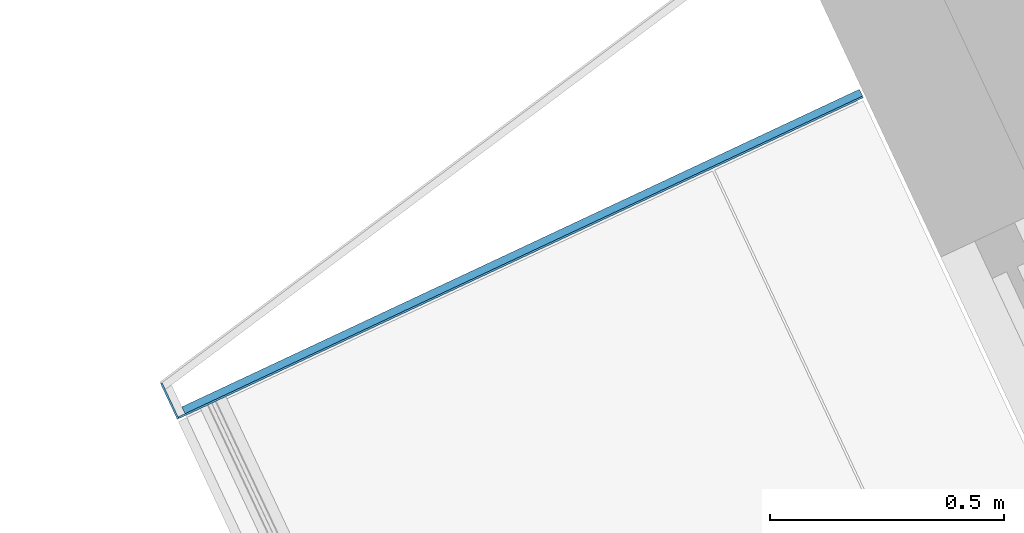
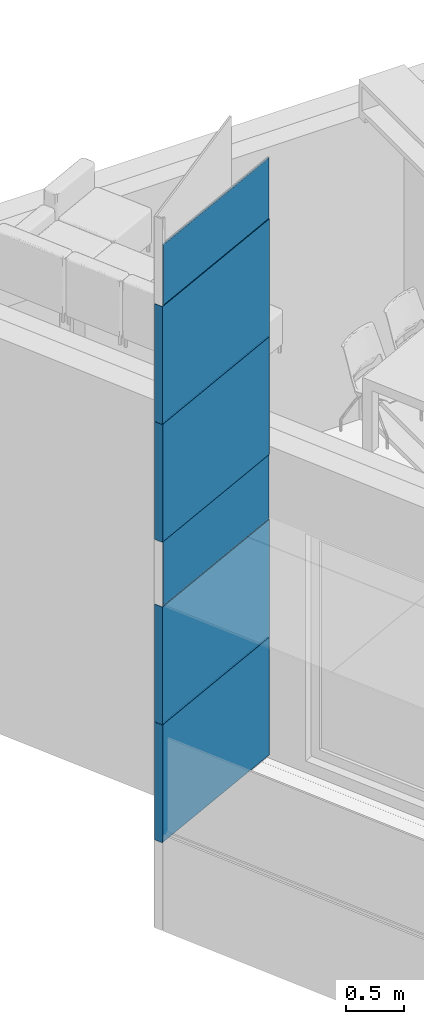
# One storey, part 11 of 125: 14 building element parts, 2 elements without a shape of their own.
"""IFC2X3 building model written with IfcOpenShell, lengths in millimetres."""

import ifcopenshell
import ifcopenshell.guid

model = None  # the IFC model being written
_history = None  # IfcOwnerHistory: only IFC2X3 demands one
_inside = {}  # id of a spatial element -> (the spatial element, [elements in it])
_under = {}  # id of a project, library or spatial element -> (it, [spatial elements below it])
_declared = {}  # id of a project -> (the project, [libraries it declares])
_typed = {}  # id of a type object -> (the type object, [elements of that type])
_made_of = {}  # id of a material, layer set ... -> (it, [elements and type objects made of it])


def new_model(schema):
    """Start an empty IFC model of exactly this schema.

    Asked for "IFC4X3", IfcOpenShell would pick the latest addendum, in which some entities
    have other attributes; the version numbers below select the first issue.
    IFC2X3 requires an IfcOwnerHistory on every rooted entity: one is made here for all.
    """
    global model, _history
    if schema == "IFC4X3":
        model = ifcopenshell.file(schema_version=(4, 3, 0, 0))
    else:
        model = ifcopenshell.file(schema=schema)
    _inside.clear()
    _under.clear()
    _declared.clear()
    _typed.clear()
    _made_of.clear()
    _history = None
    if model.schema == "IFC2X3":
        org = make("IfcOrganization", Name="unknown")
        user = make(
            "IfcPersonAndOrganization",
            ThePerson=make("IfcPerson", FamilyName="unknown"),
            TheOrganization=org,
        )
        app = make(
            "IfcApplication",
            ApplicationDeveloper=org,
            Version="unknown",
            ApplicationFullName="unknown",
            ApplicationIdentifier="unknown",
        )
        _history = make(
            "IfcOwnerHistory",
            OwningUser=user,
            OwningApplication=app,
            ChangeAction="ADDED",
            CreationDate=0,
        )
    return model


def make(cls, **values):
    """One entity of the class cls with the attributes given. An attribute that is None is left unset."""
    return model.create_entity(
        cls, **{name: value for name, value in values.items() if value is not None}
    )


def entity(cls, *values):
    """Any entity or typed value of the class cls, its attributes in the order of the schema. None: left unset."""
    e = model.create_entity(cls)
    for i, value in enumerate(values):
        if value is not None:
            e[i] = value
    return e


def rooted(cls, **values):
    """An entity with a GlobalId (a new one), such as an element, a storey or a relation."""
    return make(cls, GlobalId=ifcopenshell.guid.new(), OwnerHistory=_history, **values)


def si_unit(unit_type, name, prefix=None):
    """IfcSIUnit, for example si_unit("LENGTHUNIT", "METRE", prefix="MILLI")."""
    return make("IfcSIUnit", UnitType=unit_type, Prefix=prefix, Name=name)


def converted_unit(unit_type, name, factor, base, dimensions=None, offset=None):
    """IfcConversionBasedUnit, such as the inch: factor (a typed value) times the base unit."""
    return make(
        "IfcConversionBasedUnit"
        if offset is None
        else "IfcConversionBasedUnitWithOffset",
        ConversionOffset=offset,
        Dimensions=None
        if dimensions is None
        else entity("IfcDimensionalExponents", *dimensions),
        UnitType=unit_type,
        Name=name,
        ConversionFactor=make(
            "IfcMeasureWithUnit", ValueComponent=factor, UnitComponent=base
        ),
    )


def assignment(units):
    """IfcUnitAssignment: the units of a project."""
    return None if units is None else make("IfcUnitAssignment", Units=units)


def point(xyz):
    """IfcCartesianPoint."""
    return None if xyz is None else make("IfcCartesianPoint", Coordinates=xyz)


def direction(xyz):
    """IfcDirection."""
    return None if xyz is None else make("IfcDirection", DirectionRatios=xyz)


def frame(location, z_axis=None, x_axis=None):
    """IfcAxis2Placement3D, a coordinate frame: its origin and axes. An axis left out is left unset."""
    return make(
        "IfcAxis2Placement3D",
        Location=point(location),
        Axis=direction(z_axis),
        RefDirection=direction(x_axis),
    )


def frame_2d(location, x_axis=None):
    """IfcAxis2Placement2D, a coordinate frame in the plane: its origin and x axis."""
    return make(
        "IfcAxis2Placement2D", Location=point(location), RefDirection=direction(x_axis)
    )


def origin():
    """The frame at (0, 0, 0) with its axes left unset."""
    return frame((0.0, 0.0, 0.0))


def place(relative_to, where):
    """IfcLocalPlacement: puts the frame where relative to a parent placement (None: the world)."""
    return make(
        "IfcLocalPlacement", PlacementRelTo=relative_to, RelativePlacement=where
    )


def context(
    kind, dimensions, precision=None, world=None, true_north=None, identifier=None
):
    """IfcGeometricRepresentationContext, for example the 3D "Model" context."""
    return make(
        "IfcGeometricRepresentationContext",
        ContextIdentifier=identifier,
        ContextType=kind,
        CoordinateSpaceDimension=dimensions,
        Precision=precision,
        WorldCoordinateSystem=world,
        TrueNorth=true_north,
    )


def subcontext(parent, identifier, kind, view, scale=None):
    """IfcGeometricRepresentationSubContext, for example "Body" below "Model"."""
    return make(
        "IfcGeometricRepresentationSubContext",
        ContextIdentifier=identifier,
        ContextType=kind,
        ParentContext=parent,
        TargetScale=scale,
        TargetView=view,
    )


def project(units=None, contexts=None):
    """IfcProject with its units and contexts."""
    return rooted(
        "IfcProject",
        Name="project",
        RepresentationContexts=contexts,
        UnitsInContext=assignment(units),
    )


def spatial(cls, under=None, at=None, **own):
    """A site, building, storey or space (cls), placed at a placement, below another one or the project."""
    s = rooted(cls, ObjectPlacement=at, **own)
    if under is not None:
        _under.setdefault(under.id(), (under, []))[1].append(s)
    return s


def polyline(points):
    """IfcPolyline through the points."""
    return make("IfcPolyline", Points=[point(p) for p in points])


def profile(cls, at=None, kind="AREA", **sizes):
    """A parametric profile (cls). Its sizes go by their IFC names, for example OverallWidth=200.0."""
    return make(cls, ProfileType=kind, Position=at, **sizes)


def rectangle(**sizes):
    """IfcRectangleProfileDef."""
    return profile("IfcRectangleProfileDef", **sizes)


def outline(outer, holes=None, kind="AREA"):
    """IfcArbitraryClosedProfileDef: a profile drawn as a closed curve; with holes, ...WithVoids."""
    if holes is None:
        return make("IfcArbitraryClosedProfileDef", ProfileType=kind, OuterCurve=outer)
    return make(
        "IfcArbitraryProfileDefWithVoids",
        ProfileType=kind,
        OuterCurve=outer,
        InnerCurves=holes,
    )


def extrude(swept, where, along, depth):
    """IfcExtrudedAreaSolid: the profile swept, set in the frame where, extruded along a direction by depth."""
    return make(
        "IfcExtrudedAreaSolid",
        SweptArea=swept,
        Position=where,
        ExtrudedDirection=direction(along),
        Depth=depth,
    )


def shape(context_of_items, identifier, shape_type, items):
    """IfcShapeRepresentation: the items that make up one representation, for example the "Body"."""
    return make(
        "IfcShapeRepresentation",
        ContextOfItems=context_of_items,
        RepresentationIdentifier=identifier,
        RepresentationType=shape_type,
        Items=items,
    )


def material(Name=None, Category=None):
    """IfcMaterial."""
    return make("IfcMaterial", Name=Name, Category=Category)


def made_of(thing, what):
    """Note that an element or type object is made of a material, layer set ...; save() writes the relation."""
    if what is not None:
        _made_of.setdefault(what.id(), (what, []))[1].append(thing)
    return thing


def type_object(cls, material=None, **own):
    """A type object (cls), such as IfcWallType, which elements share."""
    return made_of(rooted(cls, **own), material)


def element(
    cls,
    number,
    at=None,
    inside=None,
    cuts=None,
    type_object=None,
    material=None,
    context=None,
    identifier="Body",
    shape_type=None,
    held_by="IfcProductDefinitionShape",
    body=None,
    shapes=None,
    **own,
):
    """One element of the class cls, such as IfcWall. Its Tag is "e" and its number.

    at: its placement. inside: the storey or other place that contains it. cuts: it is an
    opening in that element (IfcRelVoidsElement). A single representation is given by context,
    identifier, shape_type and body (its items); several are given by shapes. held_by: the class
    of the entity that holds the representations. save() writes the other relations.
    """
    e = rooted(cls, Tag="e%d" % number, ObjectPlacement=at, **own)
    if body is not None:
        shapes = [shape(context, identifier, shape_type, body)]
    if shapes is not None:
        e.Representation = make(held_by, Representations=shapes)
    if inside is not None:
        _inside.setdefault(inside.id(), (inside, []))[1].append(e)
    if cuts is not None:
        rooted(
            "IfcRelVoidsElement", RelatingBuildingElement=cuts, RelatedOpeningElement=e
        )
    if type_object is not None:
        _typed.setdefault(type_object.id(), (type_object, []))[1].append(e)
    return made_of(e, material)


def aggregate(whole, parts):
    """IfcRelAggregates: a whole, such as a stair, and the parts it consists of."""
    return rooted("IfcRelAggregates", RelatingObject=whole, RelatedObjects=parts)


def save(model, path):
    """Write the relations noted so far, then the file.

    IfcRelAggregates (storeys below a building ...), IfcRelContainedInSpatialStructure (elements
    in a storey), IfcRelDefinesByType, IfcRelAssociatesMaterial and IfcRelDeclares: one each for
    every whole, place, type object, material and project.
    """
    for whole, parts in _under.values():
        aggregate(whole, parts)
    for where, things in _inside.values():
        rooted(
            "IfcRelContainedInSpatialStructure",
            RelatedElements=things,
            RelatingStructure=where,
        )
    for kind, things in _typed.values():
        rooted("IfcRelDefinesByType", RelatedObjects=things, RelatingType=kind)
    for what, things in _made_of.values():
        rooted("IfcRelAssociatesMaterial", RelatedObjects=things, RelatingMaterial=what)
    for by, libraries in _declared.values():
        rooted("IfcRelDeclares", RelatingContext=by, RelatedDefinitions=libraries)
    model.write(path)


model = new_model("IFC2X3")

# Units and contexts
model_context = context("Model", 3, precision=0.01, world=origin(), true_north=direction((6.123233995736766e-17, 1.0)))
plan_context = context("Plan", 3, precision=0.01, world=origin(), true_north=direction((6.123233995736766e-17, 1.0)))
body_context = subcontext(model_context, "Body", "Model", "MODEL_VIEW")
ifc_project = project(units=[si_unit("LENGTHUNIT", "METRE", prefix="MILLI"), converted_unit("PLANEANGLEUNIT", "DEGREE", entity("IfcPlaneAngleMeasure", 0.017453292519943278), si_unit("PLANEANGLEUNIT", "RADIAN"), dimensions=[0, 0, 0, 0, 0, 0, 0]), si_unit("AREAUNIT", "SQUARE_METRE")], contexts=[model_context, plan_context])

# Site, building, storey
site_placement = place(None, origin())
site = spatial("IfcSite", under=ifc_project, at=site_placement, Name="Default", CompositionType="ELEMENT")
building_placement = place(site_placement, origin())
building = spatial("IfcBuilding", under=site, at=building_placement, CompositionType="ELEMENT")
storey_placement = place(building_placement, frame((0.0, 0.0, 3125.0)))
storey = spatial("IfcBuildingStorey", under=building, at=storey_placement, Name="2K", CompositionType="ELEMENT", Elevation=3125.0)

# Wall, building element parts
wall_type = type_object("IfcWallType", Name="Basic Wall:VS-komposiit", PredefinedType="STANDARD")
wall_1_placement = place(storey_placement, frame((-5275.291839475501, 10873.092340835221, -1010.0), z_axis=(0.0, 0.0, 1.0), x_axis=(0.4244316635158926, -0.9054599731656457, 0.0)))
wall_1 = element("IfcWall", 1, at=wall_1_placement, inside=storey, type_object=wall_type, Name="Basic Wall:VS-komposiit", ObjectType="Basic Wall:VS-komposiit")
ifc_material_1 = material(Name="_K. Välisviimistlus. Alumiinium-komposiitplaat")
building_element_part_1_placement = place(wall_1_placement, origin())
building_element_part_1 = element("IfcBuildingElementPart", 2, at=building_element_part_1_placement, material=ifc_material_1, Name="Part", context=body_context, shape_type="SweptSolid", body=[
    extrude(outline(polyline([(-42.2001351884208, -2.0), (42.612601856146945, -2.0), (41.7876685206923, 2.0), (-42.2001351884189, 2.0), (-42.2001351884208, -2.0)])), frame((29.57562071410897, -8.0, 2172.4999999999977), z_axis=(0.0, 0.0, 1.0), x_axis=(-1.0, 0.0, 0.0)), (0.0, 0.0, 1.0), 1240.000000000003),
])
building_element_part_2_placement = place(wall_1_placement, origin())
building_element_part_2 = element("IfcBuildingElementPart", 3, at=building_element_part_2_placement, material=ifc_material_1, Name="Part", context=body_context, shape_type="SweptSolid", body=[
    extrude(outline(polyline([(-42.2001351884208, -2.0), (42.612601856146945, -2.0), (41.7876685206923, 2.0), (-42.2001351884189, 2.0), (-42.2001351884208, -2.0)])), frame((29.57562071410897, -8.0, 927.4999999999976), z_axis=(0.0, 0.0, 1.0), x_axis=(-1.0, 0.0, 0.0)), (0.0, 0.0, 1.0), 1240.0000000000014),
])
building_element_part_3_placement = place(wall_1_placement, origin())
building_element_part_3 = element("IfcBuildingElementPart", 4, at=building_element_part_3_placement, material=ifc_material_1, Name="Part", context=body_context, shape_type="SweptSolid", body=[
    extrude(outline(polyline([(-42.2001351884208, -2.0), (42.612601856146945, -2.0), (41.7876685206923, 2.0), (-42.2001351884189, 2.0), (-42.2001351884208, -2.0)])), frame((29.57562071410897, -8.0, 4097.499999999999), z_axis=(0.0, 0.0, 1.0), x_axis=(-1.0, 0.0, 0.0)), (0.0, 0.0, 1.0), 1240.0000000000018),
])
building_element_part_4_placement = place(wall_1_placement, origin())
building_element_part_4 = element("IfcBuildingElementPart", 5, at=building_element_part_4_placement, material=ifc_material_1, Name="Part", context=body_context, shape_type="SweptSolid", body=[
    extrude(outline(polyline([(-42.2001351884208, -2.0), (42.612601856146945, -2.0), (41.7876685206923, 2.0), (-42.2001351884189, 2.0), (-42.2001351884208, -2.0)])), frame((29.57562071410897, -8.0, 5342.499999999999), z_axis=(0.0, 0.0, 1.0), x_axis=(-1.0, 0.0, 0.0)), (0.0, 0.0, 1.0), 1240.000000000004),
])
aggregate(wall_1, [building_element_part_1, building_element_part_2, building_element_part_3, building_element_part_4])

wall_2_placement = place(storey_placement, frame((-5240.017652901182, 10821.401183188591, -1010.0), z_axis=(0.0, 0.0, 1.0), x_axis=(0.905459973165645, 0.42443166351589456, 0.0)))
wall_2 = element("IfcWall", 6, at=wall_2_placement, inside=storey, type_object=wall_type, Name="Basic Wall:VS-komposiit", ObjectType="Basic Wall:VS-komposiit")
ifc_material_2 = material(Name="_K. Õhk. Roov. Fassaadikatte alusroov. Horisontaalne. 25 mm")
building_element_part_5_placement = place(wall_2_placement, origin())
building_element_part_5 = element("IfcBuildingElementPart", 7, at=building_element_part_5_placement, material=ifc_material_2, Name="Part", context=body_context, shape_type="SweptSolid", body=[
    extrude(rectangle(XDim=1597.0000000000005, YDim=16.000000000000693, at=frame_2d((-9.094947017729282e-13, 4.4009240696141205e-13), x_axis=(1.0, 0.0))), frame((798.4999999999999, 2.0, 2172.4999999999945), z_axis=(0.0, 0.0, 1.0), x_axis=(-1.0, 0.0, 0.0)), (0.0, 0.0, 1.0), 1240.0000000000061),
])
building_element_part_6_placement = place(wall_2_placement, origin())
building_element_part_6 = element("IfcBuildingElementPart", 8, at=building_element_part_6_placement, material=ifc_material_2, Name="Part", context=body_context, shape_type="SweptSolid", body=[
    extrude(rectangle(XDim=1597.0000000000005, YDim=16.000000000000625, at=frame_2d((-2.4442670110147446e-12, -1.2523315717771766e-12), x_axis=(1.0, 0.0))), frame((798.4999999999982, 2.0, 927.4999999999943), z_axis=(0.0, 0.0, 1.0), x_axis=(-1.0, 0.0, 0.0)), (0.0, 0.0, 1.0), 1240.0000000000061),
])
building_element_part_7_placement = place(wall_2_placement, origin())
building_element_part_7 = element("IfcBuildingElementPart", 9, at=building_element_part_7_placement, material=ifc_material_2, Name="Part", context=body_context, shape_type="SweptSolid", body=[
    extrude(rectangle(XDim=1597.0000000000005, YDim=16.000000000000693, at=frame_2d((-9.094947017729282e-13, 4.4009240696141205e-13), x_axis=(1.0, 0.0))), frame((798.4999999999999, 2.0, 5342.499999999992), z_axis=(0.0, 0.0, 1.0), x_axis=(-1.0, 0.0, 0.0)), (0.0, 0.0, 1.0), 1240.0000000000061),
])
building_element_part_8_placement = place(wall_2_placement, origin())
building_element_part_8 = element("IfcBuildingElementPart", 10, at=building_element_part_8_placement, material=ifc_material_1, Name="Part", context=body_context, shape_type="SweptSolid", body=[
    extrude(rectangle(XDim=4.000000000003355, YDim=1613.0000000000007, at=frame_2d((5.414557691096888e-13, -1.5347723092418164e-12), x_axis=(1.0, 0.0))), frame((790.4999999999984, -8.0, 2172.4999999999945), z_axis=(0.0, 0.0, 1.0), x_axis=(0.0, 1.0, 0.0)), (0.0, 0.0, 1.0), 1240.0000000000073),
])
building_element_part_9_placement = place(wall_2_placement, origin())
building_element_part_9 = element("IfcBuildingElementPart", 11, at=building_element_part_9_placement, material=ifc_material_1, Name="Part", context=body_context, shape_type="SweptSolid", body=[
    extrude(rectangle(XDim=4.000000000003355, YDim=1613.0000000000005, at=frame_2d((3.0453417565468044e-13, -1.8758328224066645e-12), x_axis=(1.0, 0.0))), frame((790.4999999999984, -8.0, 927.4999999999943), z_axis=(0.0, 0.0, 1.0), x_axis=(0.0, 1.0, 0.0)), (0.0, 0.0, 1.0), 1240.0000000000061),
])
building_element_part_10_placement = place(wall_2_placement, origin())
building_element_part_10 = element("IfcBuildingElementPart", 12, at=building_element_part_10_placement, material=ifc_material_1, Name="Part", context=body_context, shape_type="SweptSolid", body=[
    extrude(rectangle(XDim=4.000000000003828, YDim=1613.0000000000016, at=frame_2d((3.0464519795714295e-13, -1.9895196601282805e-12), x_axis=(1.0, 0.0))), frame((790.4999999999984, -8.0, 5342.499999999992), z_axis=(0.0, 0.0, 1.0), x_axis=(0.0, 1.0, 0.0)), (0.0, 0.0, 1.0), 1240.0000000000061),
])
building_element_part_11_placement = place(wall_2_placement, origin())
building_element_part_11 = element("IfcBuildingElementPart", 13, at=building_element_part_11_placement, material=ifc_material_2, Name="Part", context=body_context, shape_type="SweptSolid", body=[
    extrude(rectangle(XDim=1597.0000000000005, YDim=16.000000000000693, at=frame_2d((-1.9895196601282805e-12, 9.134915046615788e-13), x_axis=(1.0, 0.0))), frame((798.4999999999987, 2.0, 4097.499999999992), z_axis=(0.0, 0.0, 1.0), x_axis=(-1.0, 0.0, 0.0)), (0.0, 0.0, 1.0), 1240.000000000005),
])
building_element_part_12_placement = place(wall_2_placement, origin())
building_element_part_12 = element("IfcBuildingElementPart", 14, at=building_element_part_12_placement, material=ifc_material_1, Name="Part", context=body_context, shape_type="SweptSolid", body=[
    extrude(rectangle(XDim=4.000000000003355, YDim=1613.0000000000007, at=frame_2d((5.414557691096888e-13, -1.5347723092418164e-12), x_axis=(1.0, 0.0))), frame((790.4999999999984, -8.0, 4097.499999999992), z_axis=(0.0, 0.0, 1.0), x_axis=(0.0, 1.0, 0.0)), (0.0, 0.0, 1.0), 1240.000000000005),
])
building_element_part_13_placement = place(wall_2_placement, origin())
building_element_part_13 = element("IfcBuildingElementPart", 15, at=building_element_part_13_placement, material=ifc_material_2, Name="Part", context=body_context, shape_type="SweptSolid", body=[
    extrude(rectangle(XDim=1597.0000000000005, YDim=16.000000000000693, at=frame_2d((-9.094947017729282e-13, 4.4009240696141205e-13), x_axis=(1.0, 0.0))), frame((798.4999999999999, 2.0, 3417.499999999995), z_axis=(0.0, 0.0, 1.0), x_axis=(-1.0, 0.0, 0.0)), (0.0, 0.0, 1.0), 675.0000000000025),
])
building_element_part_14_placement = place(wall_2_placement, origin())
building_element_part_14 = element("IfcBuildingElementPart", 16, at=building_element_part_14_placement, material=ifc_material_2, Name="Part", context=body_context, shape_type="SweptSolid", body=[
    extrude(rectangle(XDim=1597.0000000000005, YDim=16.000000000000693, at=frame_2d((-1.9895196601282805e-12, 9.134915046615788e-13), x_axis=(1.0, 0.0))), frame((798.4999999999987, 2.0, 6587.499999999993), z_axis=(0.0, 0.0, 1.0), x_axis=(-1.0, 0.0, 0.0)), (0.0, 0.0, 1.0), 637.2000000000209),
])
aggregate(wall_2, [building_element_part_5, building_element_part_6, building_element_part_7, building_element_part_8, building_element_part_9, building_element_part_10, building_element_part_11, building_element_part_12, building_element_part_13, building_element_part_14])

save(model, "model.ifc")
